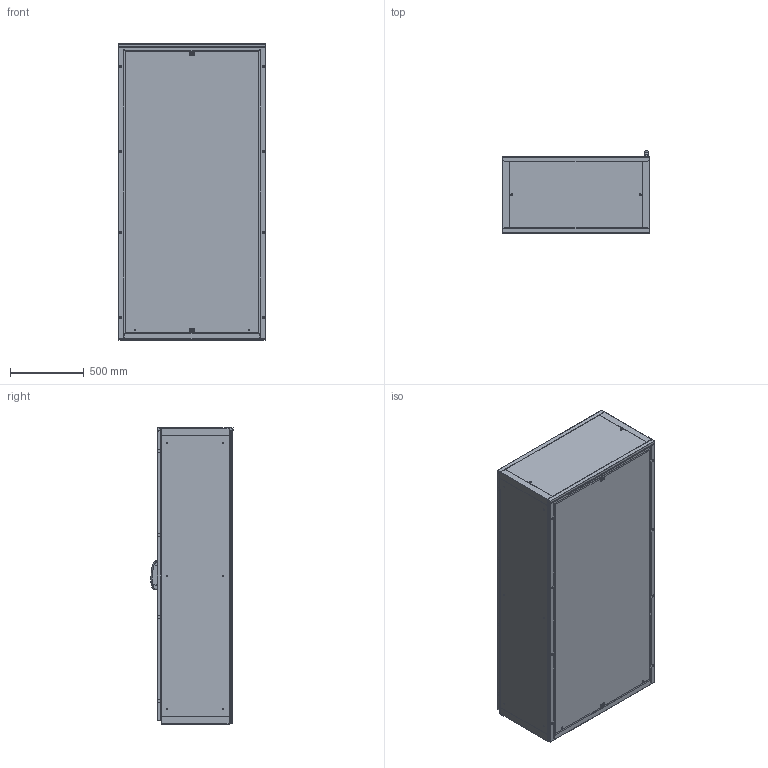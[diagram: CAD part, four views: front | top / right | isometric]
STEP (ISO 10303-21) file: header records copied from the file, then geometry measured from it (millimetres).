
FILE_DESCRIPTION (( 'STEP AP203' ), '1' );
FILE_NAME ('EMOX102005PR.STEP', '2025-06-03T09:36:13', ( '' ), ( '' ), 'SwSTEP 2.0', 'SolidWorks 2022', '' );
FILE_SCHEMA (( 'CONFIG_CONTROL_DESIGN' ));
Length unit declared in the file: millimetre
Products named in the file (9): AR_EMOX_Tegolino_1000x0100; AR_ENUX_nuova_maniglia_mesan; AR_EMOX_Porta_singola_2.0_1000x2000_ANT; AR_EMOX_Piastra_frontale_3.0_1000x2000; AR_EMOX_struttura_1000x2000x0500; EMOX102005PR; AR_EMOX_Tegolino_1000x0050; AR_EMOX_montaggio_porta_singlola_2.0_1000x2000_ANT_DX; AR_EMOX_Retro_singolo_1000x2000
Assembly tree (10 placements, depth 3):
  EMOX102005PR
    AR_EMOX_struttura_1000x2000x0500
    AR_EMOX_montaggio_porta_singlola_2.0_1000x2000_ANT_DX
      AR_EMOX_Porta_singola_2.0_1000x2000_ANT
      AR_ENUX_nuova_maniglia_mesan
    AR_EMOX_Retro_singolo_1000x2000
    AR_EMOX_Tegolino_1000x0050  x2
    AR_EMOX_Tegolino_1000x0100  x2
    AR_EMOX_Piastra_frontale_3.0_1000x2000
Bounding box: 1000 x 556.5 x 2009 mm (x, y, z)
Volume: 19697053.4 mm3; surface area: 21691066.1 mm2
Topology: 9 solids, 9 shells, 2650 faces, 7396 edges, 4758 vertices
Faces by surface type: plane 1421, cylinder 1094, cone 52, torus 38, bspline 25, sphere 20
Entity records: 87840 total; most frequent: CARTESIAN_POINT 17927, DIRECTION 14317, ORIENTED_EDGE 14152, EDGE_CURVE 7076, AXIS2_PLACEMENT_3D 4805, VECTOR 4707, LINE 4707, VERTEX_POINT 4598
